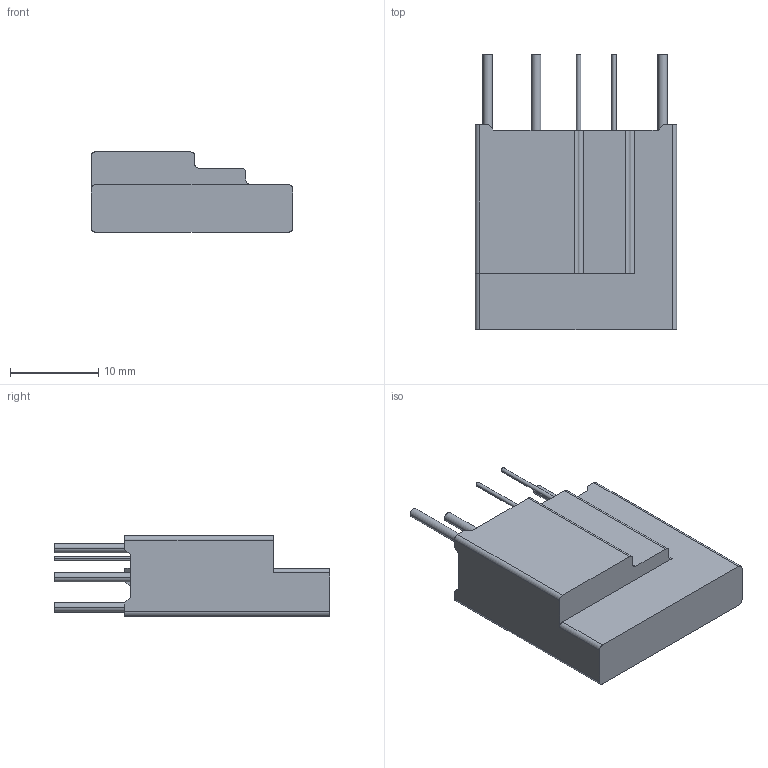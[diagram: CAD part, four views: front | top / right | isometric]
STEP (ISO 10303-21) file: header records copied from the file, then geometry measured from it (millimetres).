
FILE_DESCRIPTION((''),'2;1');
FILE_NAME('20S4201-IT-20200616','2020-06-18T',('set'),(''),'PRO/ENGINEER BY PARAMETRIC TECHNOLOGY CORPORATION, 2012310','PRO/ENGINEER BY PARAMETRIC TECHNOLOGY CORPORATION, 2012310','');
FILE_SCHEMA(('CONFIG_CONTROL_DESIGN','SHAPE_APPEARANCE_LAYERS_GROUPS'));
Length unit declared in the file: millimetre
Products named in the file (1): 20S4201-IT-20200616
Bounding box: 22.8 x 31.2 x 9.1 mm (x, y, z)
Volume: 1279.5 mm3; surface area: 3325.6 mm2
Topology: 1 solids, 2 shells, 110 faces, 301 edges, 200 vertices
Faces by surface type: plane 80, cylinder 30
Entity records: 3519 total; most frequent: CARTESIAN_POINT 611, ORIENTED_EDGE 602, DIRECTION 582, EDGE_CURVE 301, VECTOR 240, LINE 240, VERTEX_POINT 200, AXIS2_PLACEMENT_3D 171
